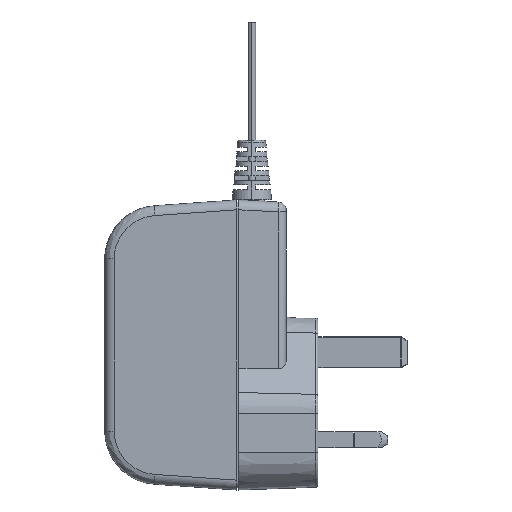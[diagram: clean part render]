
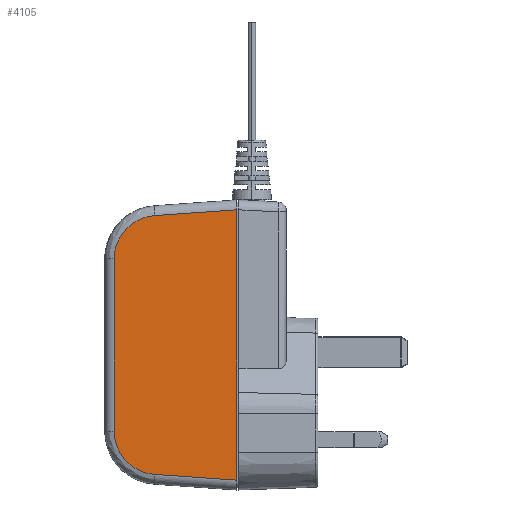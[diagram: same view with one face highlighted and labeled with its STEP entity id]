
A CAD part, left-side view. The second image highlights one B-rep face of the part: STEP entity #4105.
In plain terms, the highlighted planar face has unit normal (-0.999, 0.035, 0) as drawn and (0.999, 0.035, 0) by its records, which use the part's own axes.
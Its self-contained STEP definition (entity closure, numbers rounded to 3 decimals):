
#21=DIRECTION('',(0.,0.,-1.));
#22=VECTOR('',#21,68.5);
#23=CARTESIAN_POINT('',(17.5,0.,34.25));
#24=LINE('',#23,#22);
#766=CARTESIAN_POINT('',(16.772,20.855,-32.792));
#767=CARTESIAN_POINT('',(16.75,21.47,-32.749));
#768=CARTESIAN_POINT('',(16.708,22.674,-32.562));
#769=CARTESIAN_POINT('',(16.647,24.425,-31.983));
#770=CARTESIAN_POINT('',(16.59,26.052,-31.121));
#771=CARTESIAN_POINT('',(16.539,27.514,-30.002));
#772=CARTESIAN_POINT('',(16.495,28.77,-28.655));
#773=CARTESIAN_POINT('',(16.46,29.784,-27.119));
#774=CARTESIAN_POINT('',(16.434,30.53,-25.436));
#775=CARTESIAN_POINT('',(16.418,30.985,-23.649));
#776=CARTESIAN_POINT('',(16.414,31.087,-22.435));
#777=CARTESIAN_POINT('',(16.414,31.087,-21.818));
#806=DIRECTION('',(0.035,-0.997,0.07));
#807=VECTOR('',#806,20.918);
#808=CARTESIAN_POINT('',(16.772,20.855,32.792));
#809=LINE('',#808,#807);
#946=DIRECTION('',(0.,0.,1.));
#947=VECTOR('',#946,43.637);
#948=CARTESIAN_POINT('',(16.414,31.087,-21.818));
#949=LINE('',#948,#947);
#959=CARTESIAN_POINT('',(16.414,31.087,21.818));
#960=CARTESIAN_POINT('',(16.414,31.087,22.435));
#961=CARTESIAN_POINT('',(16.418,30.985,23.649));
#962=CARTESIAN_POINT('',(16.434,30.53,25.436));
#963=CARTESIAN_POINT('',(16.46,29.784,27.119));
#964=CARTESIAN_POINT('',(16.495,28.77,28.655));
#965=CARTESIAN_POINT('',(16.539,27.514,30.002));
#966=CARTESIAN_POINT('',(16.59,26.052,31.121));
#967=CARTESIAN_POINT('',(16.647,24.425,31.983));
#968=CARTESIAN_POINT('',(16.708,22.674,32.562));
#969=CARTESIAN_POINT('',(16.75,21.47,32.749));
#970=CARTESIAN_POINT('',(16.772,20.855,32.792));
#1069=DIRECTION('',(-0.035,0.997,0.07));
#1070=VECTOR('',#1069,20.918);
#1071=CARTESIAN_POINT('',(17.5,0.,-34.25));
#1072=LINE('',#1071,#1070);
#2577=CARTESIAN_POINT('',(16.772,20.855,32.792));
#2578=CARTESIAN_POINT('',(17.5,0.,34.25));
#2579=VERTEX_POINT('',#2577);
#2580=VERTEX_POINT('',#2578);
#2581=VERTEX_POINT('',#959);
#2583=CARTESIAN_POINT('',(16.414,31.087,-21.818));
#2584=VERTEX_POINT('',#2583);
#2587=VERTEX_POINT('',#766);
#2589=CARTESIAN_POINT('',(17.5,0.,-34.25));
#2590=VERTEX_POINT('',#2589);
#4088=CARTESIAN_POINT('',(17.5,0.,38.806));
#4089=DIRECTION('',(0.999,0.035,0.));
#4090=DIRECTION('',(0.,0.,1.));
#4091=AXIS2_PLACEMENT_3D('',#4088,#4089,#4090);
#4092=PLANE('',#4091);
#4094=ORIENTED_EDGE('',*,*,#4093,.F.);
#4096=ORIENTED_EDGE('',*,*,#4095,.F.);
#4098=ORIENTED_EDGE('',*,*,#4097,.F.);
#4099=ORIENTED_EDGE('',*,*,#4078,.F.);
#4101=ORIENTED_EDGE('',*,*,#4100,.F.);
#4102=ORIENTED_EDGE('',*,*,#3149,.F.);
#4103=EDGE_LOOP('',(#4094,#4096,#4098,#4099,#4101,#4102));
#4104=FACE_OUTER_BOUND('',#4103,.F.);
#4105=ADVANCED_FACE('',(#4104),#4092,.T.);
#778=B_SPLINE_CURVE_WITH_KNOTS('',3,(#766,#767,#768,#769,#770,#771,#772,#773,
#774,#775,#776,#777),.UNSPECIFIED.,.F.,.F.,(4,1,1,1,1,1,1,1,1,4),(0.,
0.111,0.222,0.333,0.444,
0.556,0.667,0.778,0.889,1.),
.UNSPECIFIED.);
#971=B_SPLINE_CURVE_WITH_KNOTS('',3,(#959,#960,#961,#962,#963,#964,#965,#966,
#967,#968,#969,#970),.UNSPECIFIED.,.F.,.F.,(4,1,1,1,1,1,1,1,1,4),(0.,
0.111,0.222,0.333,0.444,
0.556,0.667,0.778,0.889,1.),
.UNSPECIFIED.);
#3149=EDGE_CURVE('',#2580,#2590,#24,.T.);
#4078=EDGE_CURVE('',#2587,#2584,#778,.T.);
#4093=EDGE_CURVE('',#2579,#2580,#809,.T.);
#4095=EDGE_CURVE('',#2581,#2579,#971,.T.);
#4097=EDGE_CURVE('',#2584,#2581,#949,.T.);
#4100=EDGE_CURVE('',#2590,#2587,#1072,.T.);
